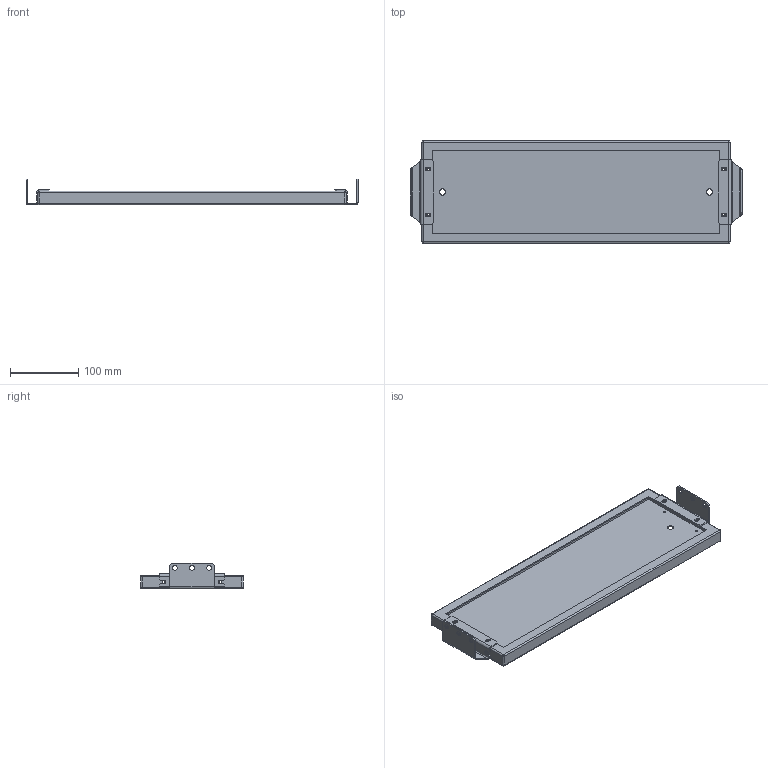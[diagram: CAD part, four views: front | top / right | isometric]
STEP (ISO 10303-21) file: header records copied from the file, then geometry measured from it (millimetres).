
FILE_DESCRIPTION (( 'STEP AP203' ), '1' );
FILE_NAME ('MP 45.15 M CÁ Ïàíåëü ìîíòàæíàÿ ñåêöèîííàÿ.STEP', '2013-01-09T13:24:34', ( 'System' ), ( '' ), 'SwSTEP 2.0', 'SolidWorks 2012', '' );
FILE_SCHEMA (( 'CONFIG_CONTROL_DESIGN' ));
Length unit declared in the file: millimetre
Products named in the file (1): MP 45.15 M CÁ Ïàíåëü ìîíòàæíàÿ ñåêöèîííàÿ
Bounding box: 485 x 150 x 37.75 mm (x, y, z)
Volume: 231166.6 mm3; surface area: 235634.7 mm2
Topology: 3 solids, 3 shells, 188 faces, 476 edges, 288 vertices
Faces by surface type: plane 92, cylinder 80, bspline 8, sphere 8
Entity records: 5961 total; most frequent: CARTESIAN_POINT 1305, DIRECTION 942, ORIENTED_EDGE 936, EDGE_CURVE 468, AXIS2_PLACEMENT_3D 325, LINE 292, VECTOR 292, VERTEX_POINT 288
